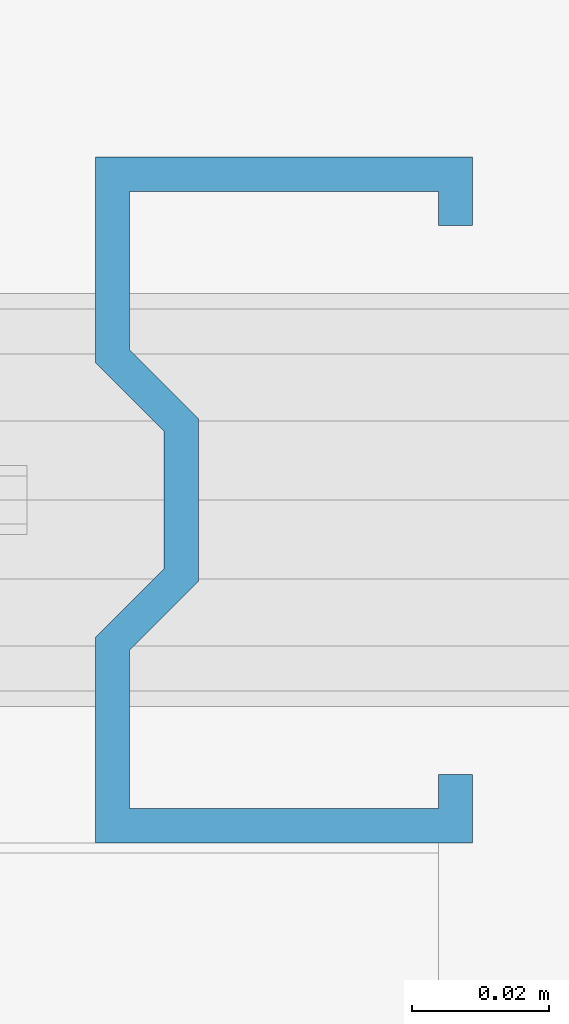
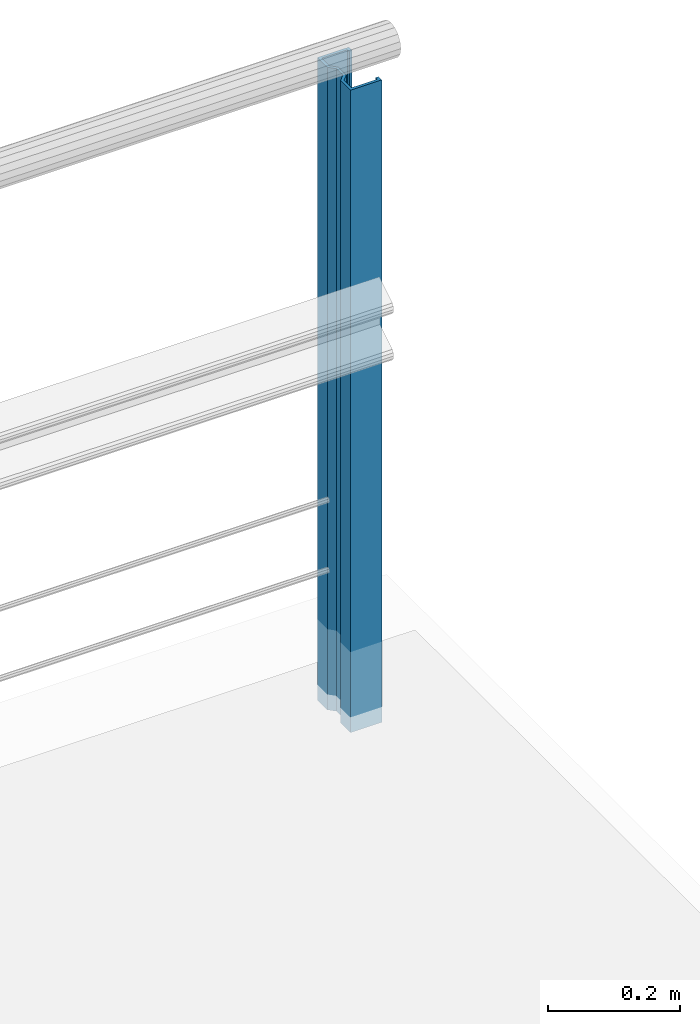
# One storey, part 4 of 31: 1 column.
"""IFC2X3 building model written with IfcOpenShell, lengths in millimetres."""

from ifc_helpers import new_model, si_unit, frame, origin_with_axes, place, context, subcontext, project, spatial, faceted_brep, material, type_object, element, save


model = new_model("IFC2X3")

# Units and contexts
model_context = context("Model", 3, precision=1e-05, world=origin_with_axes())
body_context = subcontext(model_context, "Body", "Model", "MODEL_VIEW")
ifc_project = project(units=[si_unit("LENGTHUNIT", "METRE", prefix="MILLI"), si_unit("AREAUNIT", "SQUARE_METRE"), si_unit("VOLUMEUNIT", "CUBIC_METRE"), si_unit("MASSUNIT", "GRAM", prefix="KILO"), si_unit("TIMEUNIT", "SECOND"), si_unit("PLANEANGLEUNIT", "RADIAN"), si_unit("SOLIDANGLEUNIT", "STERADIAN"), si_unit("THERMODYNAMICTEMPERATUREUNIT", "DEGREE_CELSIUS"), si_unit("LUMINOUSINTENSITYUNIT", "LUMEN")], contexts=[model_context])

# Site, building, storey
site_placement = place(None, origin_with_axes())
site = spatial("IfcSite", under=ifc_project, at=site_placement, Name="Undefined", CompositionType="ELEMENT")
building_placement = place(site_placement, origin_with_axes())
building = spatial("IfcBuilding", under=site, at=building_placement, Name="Undefined", CompositionType="ELEMENT")
storey_placement = place(building_placement, origin_with_axes())
storey = spatial("IfcBuildingStorey", under=building, at=storey_placement, Name="Undefined", CompositionType="ELEMENT", Elevation=0.0)

# Column
ifc_material = material(Name="STEEL/S355J2+N")
column_type = type_object("IfcColumnType", Name="CW100-5-10*55-10-30", PredefinedType="NOTDEFINED")
column_placement = place(storey_placement, frame((39577.5, 2900.0, -150.0), z_axis=(0.0, -1.0, 0.0), x_axis=(0.0, 0.0, 1.0)))
element("IfcColumn", 1, at=column_placement, inside=storey, type_object=column_type, material=ifc_material, Name="BB-STOLPE", context=body_context, shape_type="Brep", body=[
    faceted_brep([(0.0, -27.5, -50.0), (0.0, 27.5, -50.0), (1190.0, 27.5, -50.0), (1190.0, -27.5, -50.0), (0.0, 27.5, -20.0), (1190.0, 27.5, -20.0), (0.0, 17.5, -10.0), (1190.0, 17.5, -10.0), (0.0, 17.5, 10.0), (1190.0, 17.5, 10.0), (0.0, 27.5, 20.0), (1190.0, 27.5, 20.0), (0.0, 27.5, 50.0), (1190.0, 27.5, 50.0), (0.0, -27.5, 50.0), (1190.0, -27.5, 50.0), (0.0, -27.5, 40.0), (1190.0, -27.5, 40.0), (0.0, -22.5, 40.0), (1190.0, -22.5, 40.0), (0.0, -22.5, 45.0), (1190.0, -22.5, 45.0), (0.0, 22.5, 45.0), (1190.0, 22.5, 45.0), (0.0, 22.5, 21.9149999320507), (1190.0, 22.5, 21.9149999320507), (0.0, 12.5, 11.9149999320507), (1190.0, 12.5, 11.9149999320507), (0.0, 12.5, -11.9149999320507), (1190.0, 12.5, -11.9149999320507), (0.0, 22.5, -21.9149999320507), (1190.0, 22.5, -21.9149999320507), (0.0, 22.5, -45.0), (1190.0, 22.5, -45.0), (0.0, -22.5, -45.0), (1190.0, -22.5, -45.0), (0.0, -22.5, -40.0), (1190.0, -22.5, -40.0), (0.0, -27.5, -40.0), (1190.0, -27.5, -40.0)], [[[0, 1, 2, 3]], [[1, 4, 5, 2]], [[4, 6, 7, 5]], [[6, 8, 9, 7]], [[8, 10, 11, 9]], [[10, 12, 13, 11]], [[12, 14, 15, 13]], [[14, 16, 17, 15]], [[16, 18, 19, 17]], [[18, 20, 21, 19]], [[20, 22, 23, 21]], [[22, 24, 25, 23]], [[24, 26, 27, 25]], [[26, 28, 29, 27]], [[28, 30, 31, 29]], [[30, 32, 33, 31]], [[32, 34, 35, 33]], [[34, 36, 37, 35]], [[36, 38, 39, 37]], [[38, 0, 3, 39]], [[5, 7, 9, 11, 13, 15, 17, 19, 21, 23, 25, 27, 29, 31, 33, 35, 37, 39, 3, 2]], [[38, 36, 34, 32, 30, 28, 26, 24, 22, 20, 18, 16, 14, 12, 10, 8, 6, 4, 1, 0]]]),
])

save(model, "model.ifc")
